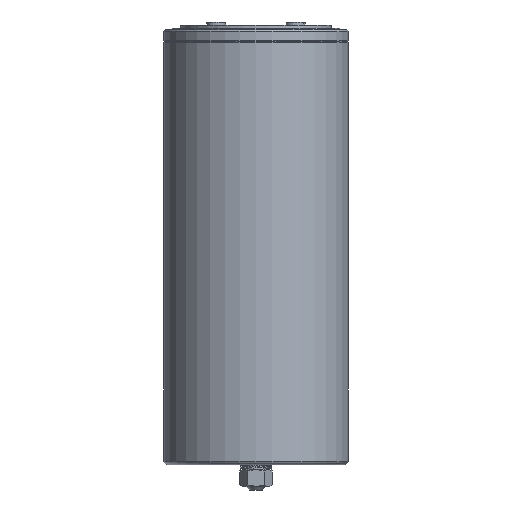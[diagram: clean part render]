
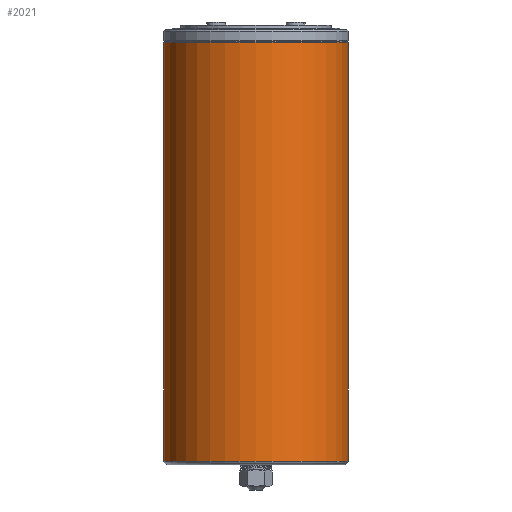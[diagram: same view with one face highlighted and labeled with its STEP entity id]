
A CAD part, front view. The second image highlights one B-rep face of the part: STEP entity #2021.
In plain terms, the highlighted cylindrical face has radius 58 mm (diameter 116 mm), a partial arc.
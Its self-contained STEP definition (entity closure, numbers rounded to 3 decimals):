
#20 = DIRECTION ( 'NONE',  ( 0., 0., -1. ) ) ;
#165 = DIRECTION ( 'NONE',  ( 0., 0., -1. ) ) ;
#353 = AXIS2_PLACEMENT_3D ( 'NONE', #1227, #6411, #6471 ) ;
#476 = CARTESIAN_POINT ( 'NONE',  ( -15.5, 0., 151.967 ) ) ;
#579 = DIRECTION ( 'NONE',  ( -1., 0., 0. ) ) ;
#974 = ORIENTED_EDGE ( 'NONE', *, *, #8125, .F. ) ;
#1135 = VECTOR ( 'NONE', #7313, 1000. ) ;
#1227 = CARTESIAN_POINT ( 'NONE',  ( -15.5, 0., 245.217 ) ) ;
#1295 = VERTEX_POINT ( 'NONE', #5744 ) ;
#1883 = FACE_OUTER_BOUND ( 'NONE', #2470, .T. ) ;
#2021 = ADVANCED_FACE ( 'NONE', ( #1883 ), #7814, .T. ) ;
#2338 = ORIENTED_EDGE ( 'NONE', *, *, #4641, .F. ) ;
#2367 = CARTESIAN_POINT ( 'NONE',  ( -73.5, 0., 245.217 ) ) ;
#2386 = AXIS2_PLACEMENT_3D ( 'NONE', #3884, #20, #579 ) ;
#2470 = EDGE_LOOP ( 'NONE', ( #974, #2966, #4092, #2338 ) ) ;
#2478 = CARTESIAN_POINT ( 'NONE',  ( 42.5, 0., 245.217 ) ) ;
#2596 = EDGE_CURVE ( 'NONE', #5036, #7954, #4908, .T. ) ;
#2772 = CARTESIAN_POINT ( 'NONE',  ( 42.5, 0., 151.967 ) ) ;
#2851 = CIRCLE ( 'NONE', #2386, 58. ) ;
#2966 = ORIENTED_EDGE ( 'NONE', *, *, #3021, .T. ) ;
#3021 = EDGE_CURVE ( 'NONE', #4047, #5036, #3476, .T. ) ;
#3476 = CIRCLE ( 'NONE', #353, 58. ) ;
#3884 = CARTESIAN_POINT ( 'NONE',  ( -15.5, 0., -18.854 ) ) ;
#4047 = VERTEX_POINT ( 'NONE', #2478 ) ;
#4092 = ORIENTED_EDGE ( 'NONE', *, *, #2596, .T. ) ;
#4298 = CARTESIAN_POINT ( 'NONE',  ( -73.5, 0., -18.854 ) ) ;
#4641 = EDGE_CURVE ( 'NONE', #1295, #7954, #2851, .T. ) ;
#4876 = AXIS2_PLACEMENT_3D ( 'NONE', #476, #6402, #5046 ) ;
#4908 = LINE ( 'NONE', #5928, #8021 ) ;
#5036 = VERTEX_POINT ( 'NONE', #2367 ) ;
#5046 = DIRECTION ( 'NONE',  ( -1., 0., 0. ) ) ;
#5744 = CARTESIAN_POINT ( 'NONE',  ( 42.5, 0., -18.854 ) ) ;
#5928 = CARTESIAN_POINT ( 'NONE',  ( -73.5, 0., 151.967 ) ) ;
#6402 = DIRECTION ( 'NONE',  ( 0., 0., -1. ) ) ;
#6411 = DIRECTION ( 'NONE',  ( 0., 0., -1. ) ) ;
#6471 = DIRECTION ( 'NONE',  ( -1., 0., 0. ) ) ;
#6570 = LINE ( 'NONE', #2772, #1135 ) ;
#7313 = DIRECTION ( 'NONE',  ( 0., 0., -1. ) ) ;
#7814 = CYLINDRICAL_SURFACE ( 'NONE', #4876, 58. ) ;
#7954 = VERTEX_POINT ( 'NONE', #4298 ) ;
#8021 = VECTOR ( 'NONE', #165, 1000. ) ;
#8125 = EDGE_CURVE ( 'NONE', #4047, #1295, #6570, .T. ) ;
